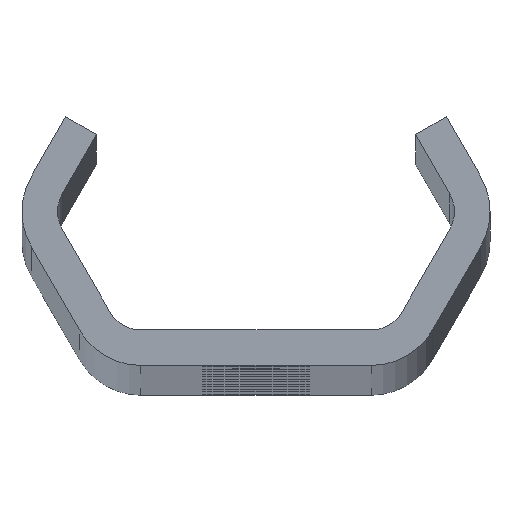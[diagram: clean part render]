
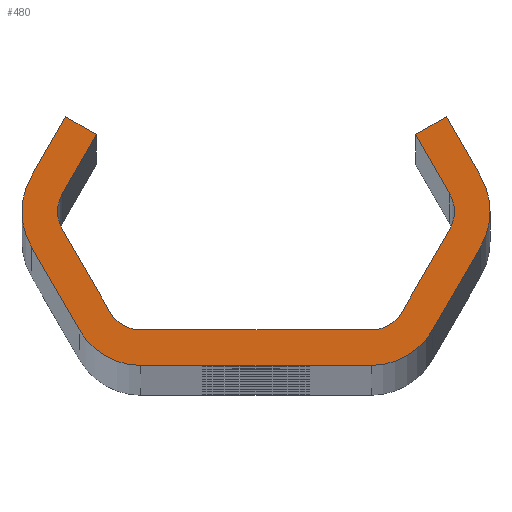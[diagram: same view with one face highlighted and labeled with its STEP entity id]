
A CAD part, top view. The second image highlights one B-rep face of the part: STEP entity #480.
In plain terms, the highlighted planar face has unit normal (0, 0, 1).
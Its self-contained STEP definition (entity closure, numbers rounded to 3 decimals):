
#480=ADVANCED_FACE('NONE',(#1312),#1313,.F.);
#1312=FACE_OUTER_BOUND('',#4172,.T.);
#1313=PLANE('',#4173);
#4172=EDGE_LOOP('',(#8422,#8423,#8424,#8425,#8426,#8427,#8428,#8429,#8430,#8431,#8432,#8433,#8434,#8435,#8436,#8437,#8438,#8439,#8440,#8441,#8442,#8443,#8444,#8445));
#4173=AXIS2_PLACEMENT_3D('',#8446,#8447,#8448);
#8422=ORIENTED_EDGE('',*,*,#11261,.T.);
#8423=ORIENTED_EDGE('',*,*,#11290,.T.);
#8424=ORIENTED_EDGE('',*,*,#11012,.T.);
#8425=ORIENTED_EDGE('',*,*,#11263,.T.);
#8426=ORIENTED_EDGE('',*,*,#11291,.T.);
#8427=ORIENTED_EDGE('',*,*,#11267,.T.);
#8428=ORIENTED_EDGE('',*,*,#11292,.T.);
#8429=ORIENTED_EDGE('',*,*,#11019,.T.);
#8430=ORIENTED_EDGE('',*,*,#11293,.T.);
#8431=ORIENTED_EDGE('',*,*,#10815,.T.);
#8432=ORIENTED_EDGE('',*,*,#11022,.T.);
#8433=ORIENTED_EDGE('',*,*,#11028,.T.);
#8434=ORIENTED_EDGE('',*,*,#11031,.T.);
#8435=ORIENTED_EDGE('',*,*,#11009,.T.);
#8436=ORIENTED_EDGE('',*,*,#11294,.T.);
#8437=ORIENTED_EDGE('',*,*,#11033,.T.);
#8438=ORIENTED_EDGE('',*,*,#11295,.T.);
#8439=ORIENTED_EDGE('',*,*,#11040,.T.);
#8440=ORIENTED_EDGE('',*,*,#11296,.T.);
#8441=ORIENTED_EDGE('',*,*,#11248,.T.);
#8442=ORIENTED_EDGE('',*,*,#11297,.T.);
#8443=ORIENTED_EDGE('',*,*,#10810,.T.);
#8444=ORIENTED_EDGE('',*,*,#11251,.T.);
#8445=ORIENTED_EDGE('',*,*,#11257,.T.);
#8446=CARTESIAN_POINT('',(0.0,0.0,1440.0));
#8447=DIRECTION('',(0.0,0.0,-1.0));
#8448=DIRECTION('',(0.0,-1.0,0.0));
#10810=EDGE_CURVE('NONE',#12056,#12060,#12062,.T.);
#10815=EDGE_CURVE('NONE',#12065,#12069,#12071,.T.);
#11009=EDGE_CURVE('NONE',#12420,#12418,#12421,.T.);
#11012=EDGE_CURVE('NONE',#12424,#12425,#12426,.T.);
#11019=EDGE_CURVE('NONE',#12438,#12436,#12439,.T.);
#11022=EDGE_CURVE('NONE',#12069,#12442,#12443,.T.);
#11028=EDGE_CURVE('NONE',#12442,#12450,#12452,.T.);
#11031=EDGE_CURVE('NONE',#12450,#12420,#12455,.T.);
#11033=EDGE_CURVE('NONE',#12457,#12458,#12459,.T.);
#11040=EDGE_CURVE('NONE',#12471,#12469,#12472,.T.);
#11248=EDGE_CURVE('NONE',#12858,#12856,#12859,.T.);
#11251=EDGE_CURVE('NONE',#12060,#12862,#12863,.T.);
#11257=EDGE_CURVE('NONE',#12862,#12870,#12872,.T.);
#11261=EDGE_CURVE('NONE',#12870,#12876,#12878,.T.);
#11263=EDGE_CURVE('NONE',#12425,#12880,#12881,.T.);
#11267=EDGE_CURVE('NONE',#12886,#12887,#12888,.T.);
#11290=EDGE_CURVE('NONE',#12876,#12424,#12913,.T.);
#11291=EDGE_CURVE('NONE',#12880,#12886,#12914,.T.);
#11292=EDGE_CURVE('NONE',#12887,#12438,#12915,.T.);
#11293=EDGE_CURVE('NONE',#12436,#12065,#12916,.T.);
#11294=EDGE_CURVE('NONE',#12418,#12457,#12917,.T.);
#11295=EDGE_CURVE('NONE',#12458,#12471,#12918,.T.);
#11296=EDGE_CURVE('NONE',#12469,#12858,#12919,.T.);
#11297=EDGE_CURVE('NONE',#12856,#12056,#12920,.T.);
#12056=VERTEX_POINT('',#13904);
#12060=VERTEX_POINT('NONE',#13909);
#12062=CIRCLE('',#13912,3.0);
#12065=VERTEX_POINT('',#13915);
#12069=VERTEX_POINT('NONE',#13920);
#12071=CIRCLE('',#13923,6.0);
#12418=VERTEX_POINT('NONE',#16056);
#12420=VERTEX_POINT('NONE',#16059);
#12421=CIRCLE('',#16060,3.0);
#12424=VERTEX_POINT('NONE',#16064);
#12425=VERTEX_POINT('NONE',#16065);
#12426=CIRCLE('',#16066,6.0);
#12436=VERTEX_POINT('NONE',#16079);
#12438=VERTEX_POINT('NONE',#16082);
#12439=LINE('',#16083,#16084);
#12442=VERTEX_POINT('NONE',#16088);
#12443=LINE('',#16089,#16090);
#12450=VERTEX_POINT('NONE',#16100);
#12452=LINE('',#16103,#16104);
#12455=LINE('',#16108,#16109);
#12457=VERTEX_POINT('NONE',#16111);
#12458=VERTEX_POINT('NONE',#16112);
#12459=LINE('',#16113,#16114);
#12469=VERTEX_POINT('NONE',#16128);
#12471=VERTEX_POINT('NONE',#16131);
#12472=LINE('',#16132,#16133);
#12856=VERTEX_POINT('NONE',#17519);
#12858=VERTEX_POINT('NONE',#17522);
#12859=LINE('',#17523,#17524);
#12862=VERTEX_POINT('NONE',#17528);
#12863=LINE('',#17529,#17530);
#12870=VERTEX_POINT('NONE',#17540);
#12872=LINE('',#17543,#17544);
#12876=VERTEX_POINT('NONE',#17549);
#12878=LINE('',#17552,#17553);
#12880=VERTEX_POINT('NONE',#17555);
#12881=LINE('',#17556,#17557);
#12886=VERTEX_POINT('NONE',#17564);
#12887=VERTEX_POINT('NONE',#17565);
#12888=LINE('',#17566,#17567);
#12913=CIRCLE('',#17595,6.0);
#12914=CIRCLE('',#17596,6.0);
#12915=CIRCLE('',#17597,6.0);
#12916=CIRCLE('',#17598,6.0);
#12917=CIRCLE('',#17599,3.0);
#12918=CIRCLE('',#17600,3.0);
#12919=CIRCLE('',#17601,3.0);
#12920=CIRCLE('',#17602,3.0);
#13904=CARTESIAN_POINT('',(-16.764,0.,1440.0));
#13909=CARTESIAN_POINT('',(-16.362,1.5,1440.0));
#13912=AXIS2_PLACEMENT_3D('',#20839,#20840,#20841);
#13915=CARTESIAN_POINT('',(19.764,0.,1440.0));
#13920=CARTESIAN_POINT('',(18.96,3.,1440.0));
#13923=AXIS2_PLACEMENT_3D('',#20847,#20848,#20849);
#16056=CARTESIAN_POINT('',(16.764,0.,1440.0));
#16059=CARTESIAN_POINT('',(16.362,1.5,1440.0));
#16060=AXIS2_PLACEMENT_3D('',#21038,#21039,#21040);
#16064=CARTESIAN_POINT('',(-19.764,0.,1440.0));
#16065=CARTESIAN_POINT('',(-18.96,-3.,1440.0));
#16066=AXIS2_PLACEMENT_3D('',#21042,#21043,#21044);
#16079=CARTESIAN_POINT('',(18.96,-3.,1440.0));
#16082=CARTESIAN_POINT('',(14.919,-10.,1440.0));
#16083=CARTESIAN_POINT('',(20.692,0.,1440.0));
#16084=VECTOR('',#21052,1000.0);
#16088=CARTESIAN_POINT('',(16.074,8.,1440.0));
#16089=CARTESIAN_POINT('',(16.074,8.,1440.0));
#16090=VECTOR('',#21054,1000.0);
#16100=CARTESIAN_POINT('',(13.475,6.5,1440.0));
#16103=CARTESIAN_POINT('',(13.475,6.5,1440.0));
#16104=VECTOR('',#21059,1000.0);
#16108=CARTESIAN_POINT('',(17.228,0.,1440.0));
#16109=VECTOR('',#21061,1000.0);
#16111=CARTESIAN_POINT('',(16.362,-1.5,1440.0));
#16112=CARTESIAN_POINT('',(12.321,-8.5,1440.0));
#16113=CARTESIAN_POINT('',(11.455,-10.0,1440.0));
#16114=VECTOR('',#21062,1000.0);
#16128=CARTESIAN_POINT('',(-9.723,-10.0,1440.0));
#16131=CARTESIAN_POINT('',(9.723,-10.0,1440.0));
#16132=CARTESIAN_POINT('',(-11.455,-10.0,1440.0));
#16133=VECTOR('',#21068,1000.0);
#17519=CARTESIAN_POINT('',(-16.362,-1.5,1440.0));
#17522=CARTESIAN_POINT('',(-12.321,-8.5,1440.0));
#17523=CARTESIAN_POINT('',(-17.228,0.,1440.0));
#17524=VECTOR('',#21291,1000.0);
#17528=CARTESIAN_POINT('',(-13.475,6.5,1440.0));
#17529=CARTESIAN_POINT('',(-13.475,6.5,1440.0));
#17530=VECTOR('',#21293,1000.0);
#17540=CARTESIAN_POINT('',(-16.074,8.,1440.0));
#17543=CARTESIAN_POINT('',(-13.475,6.5,1440.0));
#17544=VECTOR('',#21298,1000.0);
#17549=CARTESIAN_POINT('',(-18.96,3.,1440.0));
#17552=CARTESIAN_POINT('',(-16.074,8.,1440.0));
#17553=VECTOR('',#21301,1000.0);
#17555=CARTESIAN_POINT('',(-14.919,-10.,1440.0));
#17556=CARTESIAN_POINT('',(-20.692,0.,1440.0));
#17557=VECTOR('',#21302,1000.0);
#17564=CARTESIAN_POINT('',(-9.723,-13.0,1440.0));
#17565=CARTESIAN_POINT('',(9.723,-13.0,1440.0));
#17566=CARTESIAN_POINT('',(-13.187,-13.0,1440.0));
#17567=VECTOR('',#21305,1000.0);
#17595=AXIS2_PLACEMENT_3D('',#21363,#21364,#21365);
#17596=AXIS2_PLACEMENT_3D('',#21366,#21367,#21368);
#17597=AXIS2_PLACEMENT_3D('',#21369,#21370,#21371);
#17598=AXIS2_PLACEMENT_3D('',#21372,#21373,#21374);
#17599=AXIS2_PLACEMENT_3D('',#21375,#21376,#21377);
#17600=AXIS2_PLACEMENT_3D('',#21378,#21379,#21380);
#17601=AXIS2_PLACEMENT_3D('',#21381,#21382,#21383);
#17602=AXIS2_PLACEMENT_3D('',#21384,#21385,#21386);
#20839=CARTESIAN_POINT('',(-13.764,0.,1440.0));
#20840=DIRECTION('',(0.0,0.0,-1.0));
#20841=DIRECTION('',(-1.0,0.0,0.0));
#20847=CARTESIAN_POINT('',(13.764,0.,1440.0));
#20848=DIRECTION('',(0.0,0.0,1.0));
#20849=DIRECTION('',(-1.0,0.0,0.0));
#21038=CARTESIAN_POINT('',(13.764,0.,1440.0));
#21039=DIRECTION('',(0.0,0.0,-1.0));
#21040=DIRECTION('',(-1.0,0.0,0.0));
#21042=CARTESIAN_POINT('',(-13.764,0.,1440.0));
#21043=DIRECTION('',(0.0,0.0,1.0));
#21044=DIRECTION('',(-1.0,0.0,0.0));
#21052=DIRECTION('',(0.5,0.866,-0.0));
#21054=DIRECTION('',(-0.5,0.866,-0.0));
#21059=DIRECTION('',(-0.866,-0.5,-0.0));
#21061=DIRECTION('',(0.5,-0.866,-0.0));
#21062=DIRECTION('',(-0.5,-0.866,-0.0));
#21068=DIRECTION('',(-1.0,0.,-0.0));
#21291=DIRECTION('',(-0.5,0.866,-0.0));
#21293=DIRECTION('',(0.5,0.866,-0.0));
#21298=DIRECTION('',(-0.866,0.5,0.0));
#21301=DIRECTION('',(-0.5,-0.866,0.0));
#21302=DIRECTION('',(0.5,-0.866,0.0));
#21305=DIRECTION('',(1.0,0.0,0.0));
#21363=CARTESIAN_POINT('',(-13.764,0.,1440.0));
#21364=DIRECTION('',(0.0,0.0,1.0));
#21365=DIRECTION('',(-1.0,0.0,0.0));
#21366=CARTESIAN_POINT('',(-9.723,-7.0,1440.0));
#21367=DIRECTION('',(0.0,0.0,1.0));
#21368=DIRECTION('',(-1.0,0.0,0.0));
#21369=CARTESIAN_POINT('',(9.723,-7.0,1440.0));
#21370=DIRECTION('',(0.0,0.0,1.0));
#21371=DIRECTION('',(-1.0,0.,0.0));
#21372=CARTESIAN_POINT('',(13.764,0.,1440.0));
#21373=DIRECTION('',(0.0,0.0,1.0));
#21374=DIRECTION('',(-1.0,0.0,0.0));
#21375=CARTESIAN_POINT('',(13.764,0.,1440.0));
#21376=DIRECTION('',(0.0,0.0,-1.0));
#21377=DIRECTION('',(-1.0,0.0,0.0));
#21378=CARTESIAN_POINT('',(9.723,-7.0,1440.0));
#21379=DIRECTION('',(0.0,0.0,-1.0));
#21380=DIRECTION('',(-1.0,0.0,0.0));
#21381=CARTESIAN_POINT('',(-9.723,-7.0,1440.0));
#21382=DIRECTION('',(0.0,0.0,-1.0));
#21383=DIRECTION('',(-1.0,0.0,0.0));
#21384=CARTESIAN_POINT('',(-13.764,0.,1440.0));
#21385=DIRECTION('',(0.0,0.0,-1.0));
#21386=DIRECTION('',(-1.0,0.0,0.0));
